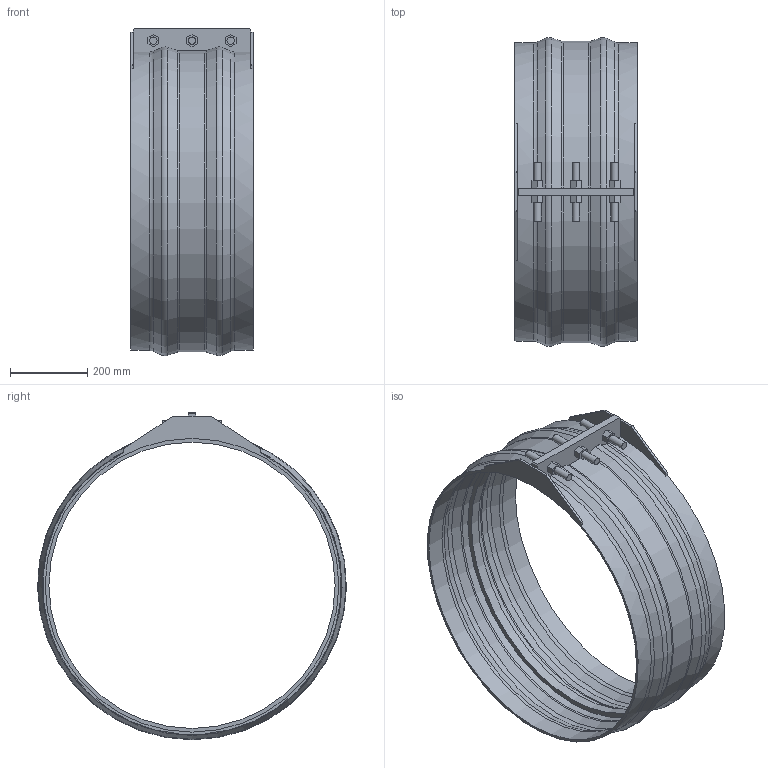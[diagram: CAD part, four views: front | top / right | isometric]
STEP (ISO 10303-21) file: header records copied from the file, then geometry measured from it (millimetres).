
FILE_DESCRIPTION(/* description */ ('VIC SS RESTRAINED COUPLING STYLE 233S (FLEX) (BRD)','CAx-IF Rec.Pracs.---Representation and Presentation of Product Manufacturing Information (PMI)---4.0---2014-10-13'),/* implementation_level */ '2;1');
FILE_NAME(/* name */ 'C:\Users\kkamble\AppData\Roaming\Autodesk\ApplicationPlugins\Back Up\Victaulic_VBSP_Coupling Flexible Restrained_Style 233S (BRD)\Victaulic_VBSP_Coupling Flexible Restrained_Style 233S (BRD)_150psi_30 (750).stp',/* time_stamp */ '2020-09-22T18:29:09+06:00',/* author */ ('Vjadhav'),/* organization */ ('Victaulic'),/* preprocessor_version */ 'ST-DEVELOPER v17.2',/* originating_system */ 'Autodesk Inventor 2019',/* authorisation */ '');
FILE_SCHEMA (('AP242_MANAGED_MODEL_BASED_3D_ENGINEERING_MIM_LF { 1 0 10303 442 1 1 4 }'));
Length unit declared in the file: inch
Products named in the file (1): Style_233S_Type_2_150psi-30.0
Bounding box: 317.5 x 801.33 x 849.64 mm (x, y, z)
Volume: 6438851.2 mm3; surface area: 1788729.5 mm2
Topology: 1 solids, 1 shells, 115 faces, 309 edges, 210 vertices
Faces by surface type: plane 73, cylinder 22, torus 12, cone 8
Full cylindrical faces by diameter (mm): 19.05 x6, 742.95 x1, 762 x2, 768.35 x2
Entity records: 3970 total; most frequent: CARTESIAN_POINT 764, DIRECTION 645, ORIENTED_EDGE 618, EDGE_CURVE 309, AXIS2_PLACEMENT_3D 227, VERTEX_POINT 210, LINE 191, VECTOR 191
